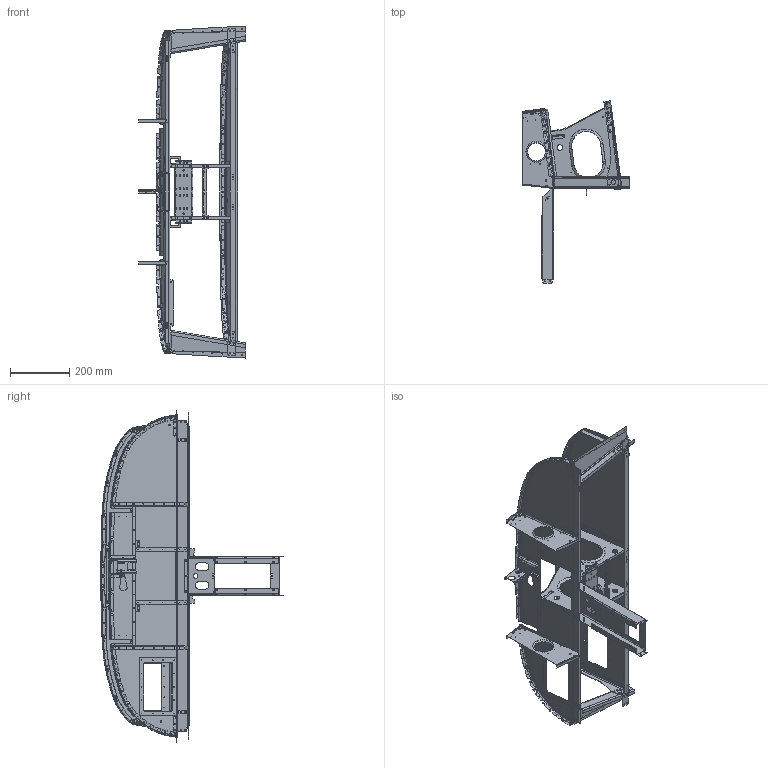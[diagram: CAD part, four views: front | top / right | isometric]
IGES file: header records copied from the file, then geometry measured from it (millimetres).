
Start section: SolidWorks IGES file using analytic representation for surfaces
Global section: file name: Q:\Z other\Website\Download Files\Panels\3D Panels\RV-14 3D Panel.IGS; native system: SolidWorks 2017; preprocessor: SolidWorks 2017; author: rianj; date: 170810.092721; units: inch
Bounding box: 360.83 x 616.15 x 1121.67 mm (x, y, z)
Volume: 1028900.6 mm3; surface area: 2005741.7 mm2
Topology: 30 solids, 30 shells, 4515 faces, 12173 edges, 7676 vertices
Faces by surface type: revolution 2743, plane 1205, bspline 567
